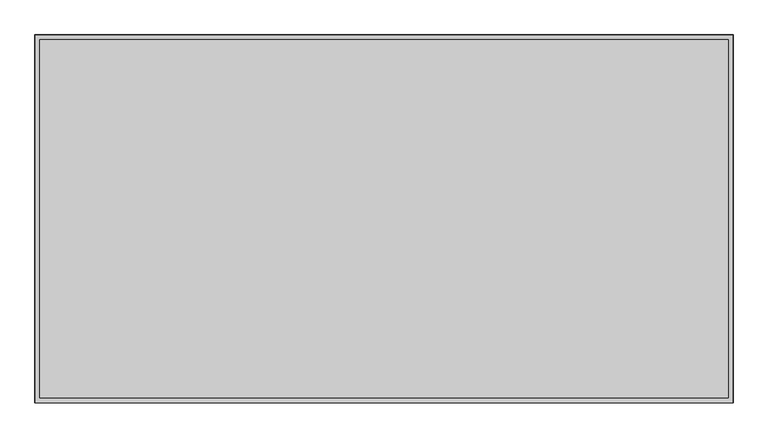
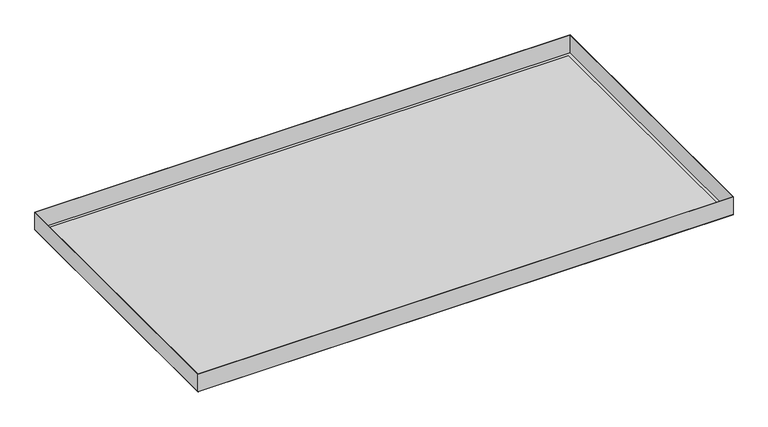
"""IFC4 building model written with IfcOpenShell, lengths in millimetres: proxy geometry, durlum_S-OM-63 : durlum_S-OM-63_panel."""

from ifc_helpers import new_model, si_unit, frame, origin, origin_with_axes, place, context, project, spatial, polyline, outline, extrude, source, transform, mapped, element, save


def generic_models_44d01217(model_context):
    return source(origin(), model_context, "Body", "SweptSolid", [
        extrude(outline(polyline([(567.45, 299.5), (567.45, -299.5), (-567.45, -299.5), (-567.45, 299.5), (567.45, 299.5)]), holes=[polyline([(566.85, 298.9), (-566.85, 298.9), (-566.85, -298.9), (566.85, -298.9), (566.85, 298.9)])]), frame((0.0, 0.0, 0.6), z_axis=(0.0, 0.0, 1.0), x_axis=(1.0, 0.0, 0.0)), (0.0, 0.0, 1.0), 39.4),
        extrude(outline(polyline([(559.45, 291.5), (559.45, -291.5), (-559.45, -291.5), (-559.45, 291.5), (559.45, 291.5)])), frame((0.0, 0.0, 0.6), z_axis=(0.0, 0.0, 1.0), x_axis=(1.0, 0.0, 0.0)), (0.0, 0.0, 1.0), 0.6),
        extrude(outline(polyline([(567.45, 299.5), (567.45, -299.5), (-567.45, -299.5), (-567.45, 299.5), (567.45, 299.5)]), holes=[polyline([(559.45, 291.5), (-559.45, 291.5), (-559.45, -291.5), (559.45, -291.5), (559.45, 291.5)])]), origin_with_axes(), (0.0, 0.0, 1.0), 0.6),
        extrude(outline(polyline([(559.45, 291.5), (559.45, -291.5), (-559.45, -291.5), (-559.45, 291.5), (559.45, 291.5)])), origin_with_axes(), (0.0, 0.0, 1.0), 0.6),
    ])


if __name__ == "__main__":
    model = new_model("IFC4")
    model_context = context("Model", 3, world=origin())
    ifc_project = project(units=[si_unit("LENGTHUNIT", "METRE", prefix="MILLI")], contexts=[model_context])
    site = spatial("IfcSite", under=ifc_project)
    building = spatial("IfcBuilding", under=site)
    placement = place(None, origin())
    generic_models_shape = generic_models_44d01217(model_context)
    element("IfcBuildingElementProxy", 1, Name="durlum_S-OM-63 : durlum_S-OM-63_panel", ObjectType="durlum_S-OM-63 : durlum_S-OM-63_panel", at=placement, inside=building, context=model_context, shape_type="MappedRepresentation", body=[
        mapped(generic_models_shape, transform((0.0, 0.0, 0.0), x_axis=(1.0, 0.0, 0.0), y_axis=(0.0, 1.0, 0.0), z_axis=(0.0, 0.0, 1.0))),
    ])
    save(model, "model.ifc")
